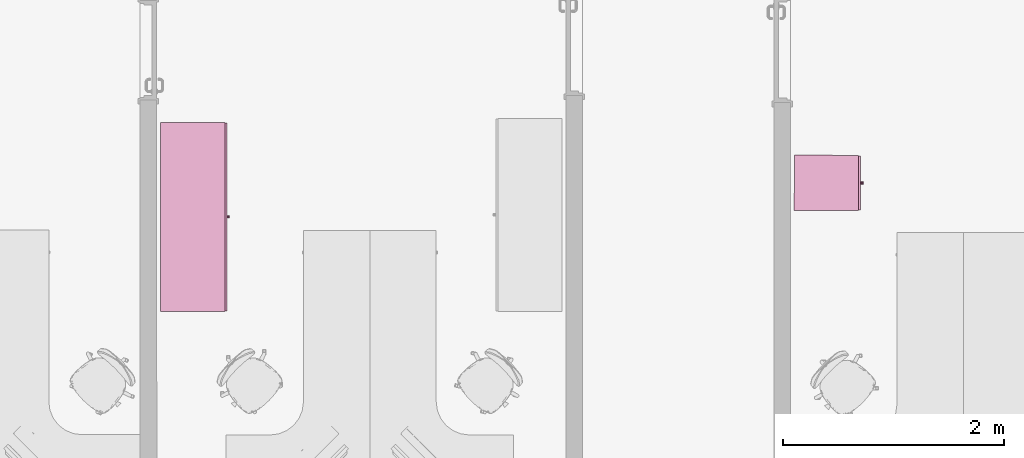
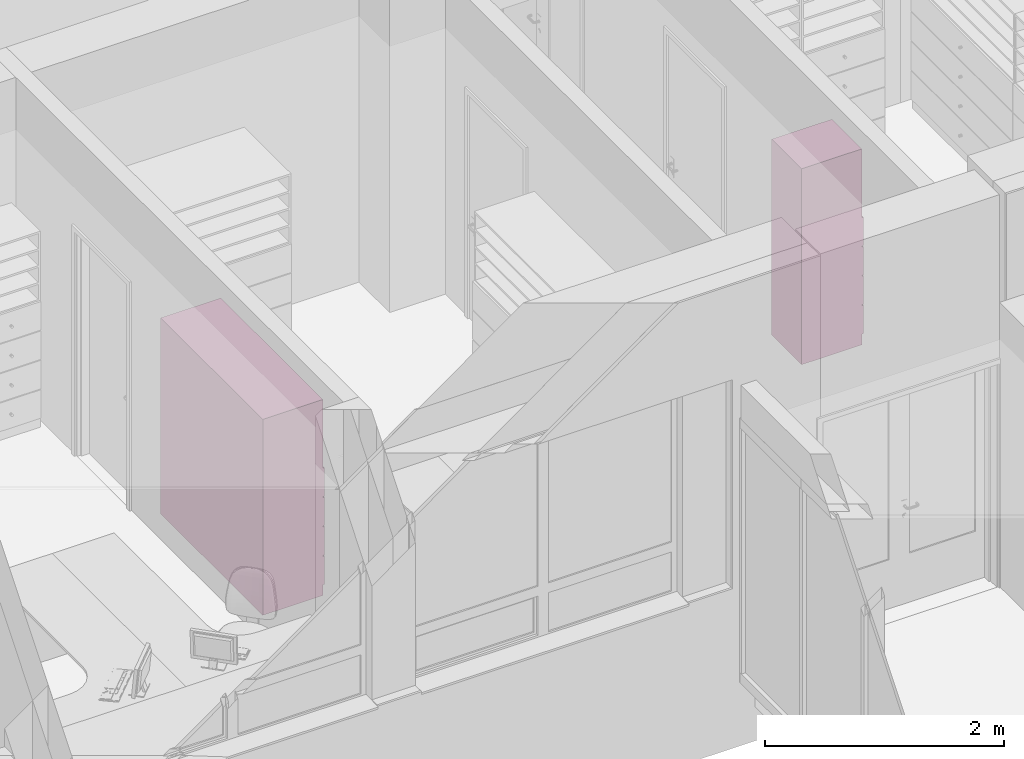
# One storey, part 135 of 194: 2 furnishings.
"""IFC2X3 building model written with IfcOpenShell, lengths in millimetres."""

import ifcopenshell
import ifcopenshell.guid

model = None  # the IFC model being written
_history = None  # IfcOwnerHistory: only IFC2X3 demands one
_inside = {}  # id of a spatial element -> (the spatial element, [elements in it])
_under = {}  # id of a project, library or spatial element -> (it, [spatial elements below it])
_declared = {}  # id of a project -> (the project, [libraries it declares])
_typed = {}  # id of a type object -> (the type object, [elements of that type])
_made_of = {}  # id of a material, layer set ... -> (it, [elements and type objects made of it])


def new_model(schema):
    """Start an empty IFC model of exactly this schema.

    Asked for "IFC4X3", IfcOpenShell would pick the latest addendum, in which some entities
    have other attributes; the version numbers below select the first issue.
    IFC2X3 requires an IfcOwnerHistory on every rooted entity: one is made here for all.
    """
    global model, _history
    if schema == "IFC4X3":
        model = ifcopenshell.file(schema_version=(4, 3, 0, 0))
    else:
        model = ifcopenshell.file(schema=schema)
    _inside.clear()
    _under.clear()
    _declared.clear()
    _typed.clear()
    _made_of.clear()
    _history = None
    if model.schema == "IFC2X3":
        org = make("IfcOrganization", Name="unknown")
        user = make(
            "IfcPersonAndOrganization",
            ThePerson=make("IfcPerson", FamilyName="unknown"),
            TheOrganization=org,
        )
        app = make(
            "IfcApplication",
            ApplicationDeveloper=org,
            Version="unknown",
            ApplicationFullName="unknown",
            ApplicationIdentifier="unknown",
        )
        _history = make(
            "IfcOwnerHistory",
            OwningUser=user,
            OwningApplication=app,
            ChangeAction="ADDED",
            CreationDate=0,
        )
    return model


def make(cls, **values):
    """One entity of the class cls with the attributes given. An attribute that is None is left unset."""
    return model.create_entity(
        cls, **{name: value for name, value in values.items() if value is not None}
    )


def entity(cls, *values):
    """Any entity or typed value of the class cls, its attributes in the order of the schema. None: left unset."""
    e = model.create_entity(cls)
    for i, value in enumerate(values):
        if value is not None:
            e[i] = value
    return e


def rooted(cls, **values):
    """An entity with a GlobalId (a new one), such as an element, a storey or a relation."""
    return make(cls, GlobalId=ifcopenshell.guid.new(), OwnerHistory=_history, **values)


def si_unit(unit_type, name, prefix=None):
    """IfcSIUnit, for example si_unit("LENGTHUNIT", "METRE", prefix="MILLI")."""
    return make("IfcSIUnit", UnitType=unit_type, Prefix=prefix, Name=name)


def converted_unit(unit_type, name, factor, base, dimensions=None, offset=None):
    """IfcConversionBasedUnit, such as the inch: factor (a typed value) times the base unit."""
    return make(
        "IfcConversionBasedUnit"
        if offset is None
        else "IfcConversionBasedUnitWithOffset",
        ConversionOffset=offset,
        Dimensions=None
        if dimensions is None
        else entity("IfcDimensionalExponents", *dimensions),
        UnitType=unit_type,
        Name=name,
        ConversionFactor=make(
            "IfcMeasureWithUnit", ValueComponent=factor, UnitComponent=base
        ),
    )


def derived_unit(unit_type, elements):
    """IfcDerivedUnit: a product of units, each with its exponent."""
    return make(
        "IfcDerivedUnit",
        Elements=[
            make("IfcDerivedUnitElement", Unit=unit, Exponent=power)
            for unit, power in elements
        ],
        UnitType=unit_type,
    )


def money_unit(currency):
    """IfcMonetaryUnit."""
    return make("IfcMonetaryUnit", Currency=currency)


def assignment(units):
    """IfcUnitAssignment: the units of a project."""
    return None if units is None else make("IfcUnitAssignment", Units=units)


def point(xyz):
    """IfcCartesianPoint."""
    return None if xyz is None else make("IfcCartesianPoint", Coordinates=xyz)


def direction(xyz):
    """IfcDirection."""
    return None if xyz is None else make("IfcDirection", DirectionRatios=xyz)


def frame(location, z_axis=None, x_axis=None):
    """IfcAxis2Placement3D, a coordinate frame: its origin and axes. An axis left out is left unset."""
    return make(
        "IfcAxis2Placement3D",
        Location=point(location),
        Axis=direction(z_axis),
        RefDirection=direction(x_axis),
    )


def origin_with_axes():
    """The frame at (0, 0, 0) with the z axis (0, 0, 1) and the x axis (1, 0, 0) written out."""
    return frame((0.0, 0.0, 0.0), z_axis=(0.0, 0.0, 1.0), x_axis=(1.0, 0.0, 0.0))


def place(relative_to, where):
    """IfcLocalPlacement: puts the frame where relative to a parent placement (None: the world)."""
    return make(
        "IfcLocalPlacement", PlacementRelTo=relative_to, RelativePlacement=where
    )


def context(
    kind, dimensions, precision=None, world=None, true_north=None, identifier=None
):
    """IfcGeometricRepresentationContext, for example the 3D "Model" context."""
    return make(
        "IfcGeometricRepresentationContext",
        ContextIdentifier=identifier,
        ContextType=kind,
        CoordinateSpaceDimension=dimensions,
        Precision=precision,
        WorldCoordinateSystem=world,
        TrueNorth=true_north,
    )


def subcontext(parent, identifier, kind, view, scale=None):
    """IfcGeometricRepresentationSubContext, for example "Body" below "Model"."""
    return make(
        "IfcGeometricRepresentationSubContext",
        ContextIdentifier=identifier,
        ContextType=kind,
        ParentContext=parent,
        TargetScale=scale,
        TargetView=view,
    )


def project(units=None, contexts=None):
    """IfcProject with its units and contexts."""
    return rooted(
        "IfcProject",
        Name="project",
        RepresentationContexts=contexts,
        UnitsInContext=assignment(units),
    )


def spatial(cls, under=None, at=None, **own):
    """A site, building, storey or space (cls), placed at a placement, below another one or the project."""
    s = rooted(cls, ObjectPlacement=at, **own)
    if under is not None:
        _under.setdefault(under.id(), (under, []))[1].append(s)
    return s


def faces_of(points, faces, orient=None, outer=None):
    """IfcFace entities. A face is a list of loops; a loop is a list of indices into points, from 0.

    orient and outer hold one flag for each loop. By default every Orientation is true, the
    first loop of a face is its IfcFaceOuterBound and the others are IfcFaceBound.
    """
    made = []
    for i, loops in enumerate(faces):
        bounds = []
        for j, loop in enumerate(loops):
            is_outer = j == 0 if outer is None else outer[i][j]
            bounds.append(
                make(
                    "IfcFaceOuterBound" if is_outer else "IfcFaceBound",
                    Bound=make("IfcPolyLoop", Polygon=[points[k] for k in loop]),
                    Orientation=True if orient is None else orient[i][j],
                )
            )
        made.append(make("IfcFace", Bounds=bounds))
    return made


def faceted_brep(points, faces, orient=None, outer=None, voids=None):
    """IfcFacetedBrep: a solid bounded by flat faces; with voids (closed shells), ...WithVoids."""
    shared = [point(p) for p in points]
    hull = make("IfcClosedShell", CfsFaces=faces_of(shared, faces, orient, outer))
    if voids is None:
        return make("IfcFacetedBrep", Outer=hull)
    return make(
        "IfcFacetedBrepWithVoids",
        Outer=hull,
        Voids=[
            make(cls, CfsFaces=faces_of(shared, fs, o, b)) for cls, fs, o, b in voids
        ],
    )


def shape(context_of_items, identifier, shape_type, items):
    """IfcShapeRepresentation: the items that make up one representation, for example the "Body"."""
    return make(
        "IfcShapeRepresentation",
        ContextOfItems=context_of_items,
        RepresentationIdentifier=identifier,
        RepresentationType=shape_type,
        Items=items,
    )


def source(mapping_origin, context_of_items, identifier, shape_type, items):
    """IfcRepresentationMap: a shape defined once, which mapped items show again and again."""
    return make(
        "IfcRepresentationMap",
        MappingOrigin=mapping_origin,
        MappedRepresentation=shape(context_of_items, identifier, shape_type, items),
    )


def transform(
    local_origin,
    x_axis=None,
    y_axis=None,
    z_axis=None,
    scale=None,
    scale2=None,
    scale3=None,
    uniform=True,
):
    """IfcCartesianTransformationOperator3D, or its non-uniform kind. x_axis, y_axis, z_axis: its Axis1, 2, 3."""
    if uniform:
        return make(
            "IfcCartesianTransformationOperator3D",
            Axis1=direction(x_axis),
            Axis2=direction(y_axis),
            LocalOrigin=point(local_origin),
            Scale=scale,
            Axis3=direction(z_axis),
        )
    return make(
        "IfcCartesianTransformationOperator3DnonUniform",
        Axis1=direction(x_axis),
        Axis2=direction(y_axis),
        LocalOrigin=point(local_origin),
        Scale=scale,
        Axis3=direction(z_axis),
        Scale2=scale2,
        Scale3=scale3,
    )


def mapped(mapping_source, mapping_target):
    """IfcMappedItem: shows the shape of a source again, moved by a transform."""
    return make(
        "IfcMappedItem", MappingSource=mapping_source, MappingTarget=mapping_target
    )


def made_of(thing, what):
    """Note that an element or type object is made of a material, layer set ...; save() writes the relation."""
    if what is not None:
        _made_of.setdefault(what.id(), (what, []))[1].append(thing)
    return thing


def type_object(cls, material=None, **own):
    """A type object (cls), such as IfcWallType, which elements share."""
    return made_of(rooted(cls, **own), material)


def element(
    cls,
    number,
    at=None,
    inside=None,
    cuts=None,
    type_object=None,
    material=None,
    context=None,
    identifier="Body",
    shape_type=None,
    held_by="IfcProductDefinitionShape",
    body=None,
    shapes=None,
    **own,
):
    """One element of the class cls, such as IfcWall. Its Tag is "e" and its number.

    at: its placement. inside: the storey or other place that contains it. cuts: it is an
    opening in that element (IfcRelVoidsElement). A single representation is given by context,
    identifier, shape_type and body (its items); several are given by shapes. held_by: the class
    of the entity that holds the representations. save() writes the other relations.
    """
    e = rooted(cls, Tag="e%d" % number, ObjectPlacement=at, **own)
    if body is not None:
        shapes = [shape(context, identifier, shape_type, body)]
    if shapes is not None:
        e.Representation = make(held_by, Representations=shapes)
    if inside is not None:
        _inside.setdefault(inside.id(), (inside, []))[1].append(e)
    if cuts is not None:
        rooted(
            "IfcRelVoidsElement", RelatingBuildingElement=cuts, RelatedOpeningElement=e
        )
    if type_object is not None:
        _typed.setdefault(type_object.id(), (type_object, []))[1].append(e)
    return made_of(e, material)


def aggregate(whole, parts):
    """IfcRelAggregates: a whole, such as a stair, and the parts it consists of."""
    return rooted("IfcRelAggregates", RelatingObject=whole, RelatedObjects=parts)


def save(model, path):
    """Write the relations noted so far, then the file.

    IfcRelAggregates (storeys below a building ...), IfcRelContainedInSpatialStructure (elements
    in a storey), IfcRelDefinesByType, IfcRelAssociatesMaterial and IfcRelDeclares: one each for
    every whole, place, type object, material and project.
    """
    for whole, parts in _under.values():
        aggregate(whole, parts)
    for where, things in _inside.values():
        rooted(
            "IfcRelContainedInSpatialStructure",
            RelatedElements=things,
            RelatingStructure=where,
        )
    for kind, things in _typed.values():
        rooted("IfcRelDefinesByType", RelatedObjects=things, RelatingType=kind)
    for what, things in _made_of.values():
        rooted("IfcRelAssociatesMaterial", RelatedObjects=things, RelatingMaterial=what)
    for by, libraries in _declared.values():
        rooted("IfcRelDeclares", RelatingContext=by, RelatedDefinitions=libraries)
    model.write(path)


model = new_model("IFC2X3")

# Units and contexts
model_context = context("Model", 3, precision=1e-05, world=origin_with_axes(), true_north=direction((0.0, 1.0)))
body_context = subcontext(model_context, "Body", "Model", "MODEL_VIEW")
ifc_project = project(units=[si_unit("LENGTHUNIT", "METRE", prefix="MILLI"), si_unit("AREAUNIT", "SQUARE_METRE"), si_unit("VOLUMEUNIT", "CUBIC_METRE"), converted_unit("PLANEANGLEUNIT", "DEGREE", entity("IfcPlaneAngleMeasure", 0.0174532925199), si_unit("PLANEANGLEUNIT", "RADIAN"), dimensions=[0, 0, 0, 0, 0, 0, 0]), si_unit("SOLIDANGLEUNIT", "STERADIAN"), money_unit("EUR"), converted_unit("TIMEUNIT", "Year", entity("IfcTimeMeasure", 31556926.0), si_unit("TIMEUNIT", "SECOND"), dimensions=[0, 0, 1, 0, 0, 0, 0]), si_unit("MASSUNIT", "GRAM", prefix="KILO"), si_unit("THERMODYNAMICTEMPERATUREUNIT", "DEGREE_CELSIUS"), si_unit("LUMINOUSINTENSITYUNIT", "LUMEN"), si_unit("ENERGYUNIT", "JOULE", prefix="MEGA"), derived_unit("THERMALCONDUCTANCEUNIT", [(si_unit("POWERUNIT", "WATT"), 1), (si_unit("LENGTHUNIT", "METRE"), -1), (si_unit("THERMODYNAMICTEMPERATUREUNIT", "KELVIN"), -1)]), derived_unit("SPECIFICHEATCAPACITYUNIT", [(si_unit("ENERGYUNIT", "JOULE"), 1), (si_unit("MASSUNIT", "GRAM", prefix="KILO"), -1), (si_unit("THERMODYNAMICTEMPERATUREUNIT", "KELVIN"), -1)]), derived_unit("MASSDENSITYUNIT", [(si_unit("MASSUNIT", "GRAM", prefix="KILO"), 1), (si_unit("VOLUMEUNIT", "CUBIC_METRE"), -1)])], contexts=[model_context])

# Site, building, storey
site_placement = place(None, origin_with_axes())
site = spatial("IfcSite", under=ifc_project, at=site_placement, Name="Site", CompositionType="ELEMENT")
building_placement = place(site_placement, origin_with_axes())
building = spatial("IfcBuilding", under=site, at=building_placement, Name="Building", CompositionType="ELEMENT")
storey_placement = place(building_placement, frame((0.0, 0.0, 3000.0), z_axis=(0.0, 0.0, 1.0), x_axis=(1.0, 0.0, 0.0)))
storey = spatial("IfcBuildingStorey", under=building, at=storey_placement, Name="2 KORRUS", CompositionType="ELEMENT", Elevation=3000.0)

# Furnishings
furnishing_element_type_1 = type_object("IfcFurnishingElementType", Name="Model Element 105")
shared_shape_1 = source(origin_with_axes(), body_context, "Body", "Brep", [
    faceted_brep([(-1709.22062814, 19.0, 0.0), (-1709.22062814, 600.0, 0.0), (0.0, 600.0, 0.0), (0.0, 19.0, 0.0), (-1709.22062814, 19.0, 100.0), (-1709.22062814, 600.0, 100.0), (0.0, 600.0, 100.0), (0.0, 19.0, 100.0)], [[[0, 1, 2, 3]], [[0, 4, 5, 1]], [[1, 5, 6, 2]], [[2, 6, 7, 3]], [[3, 7, 4, 0]], [[7, 6, 5, 4]]]),
    faceted_brep([(-19.0, 600.0, 119.0), (-19.0, 600.0, 1981.0), (-19.0, 581.0, 1981.0), (-19.0, 581.0, 119.0), (-1690.22062814, 600.0, 119.0), (-1690.22062814, 600.0, 1981.0), (-1690.22062814, 581.0, 1981.0), (-1690.22062814, 581.0, 119.0)], [[[0, 1, 2, 3]], [[4, 5, 1, 0]], [[1, 5, 6, 2]], [[3, 2, 6, 7]], [[0, 3, 7, 4]], [[7, 6, 5, 4]]]),
    faceted_brep([(-1709.22062814, 19.0, 100.0), (-1709.22062814, 600.0, 100.0), (-1690.22062814, 600.0, 100.0), (-1690.22062814, 19.0, 100.0), (-1709.22062814, 19.0, 2000.0), (-1709.22062814, 600.0, 2000.0), (-1690.22062814, 600.0, 2000.0), (-1690.22062814, 19.0, 2000.0)], [[[0, 1, 2, 3]], [[0, 4, 5, 1]], [[1, 5, 6, 2]], [[2, 6, 7, 3]], [[3, 7, 4, 0]], [[7, 6, 5, 4]]]),
    faceted_brep([(-19.0, 19.0, 100.0), (-19.0, 600.0, 100.0), (0.0, 600.0, 100.0), (0.0, 19.0, 100.0), (-19.0, 19.0, 2000.0), (-19.0, 600.0, 2000.0), (0.0, 600.0, 2000.0), (0.0, 19.0, 2000.0)], [[[0, 1, 2, 3]], [[0, 4, 5, 1]], [[1, 5, 6, 2]], [[2, 6, 7, 3]], [[3, 7, 4, 0]], [[7, 6, 5, 4]]]),
    faceted_brep([(-1690.22062814, 19.0, 100.0), (-1690.22062814, 600.0, 100.0), (-19.0, 600.0, 100.0), (-19.0, 19.0, 100.0), (-1690.22062814, 19.0, 119.0), (-1690.22062814, 600.0, 119.0), (-19.0, 600.0, 119.0), (-19.0, 19.0, 119.0)], [[[0, 1, 2, 3]], [[0, 4, 5, 1]], [[1, 5, 6, 2]], [[2, 6, 7, 3]], [[3, 7, 4, 0]], [[7, 6, 5, 4]]]),
    faceted_brep([(-1690.22062814, 19.0, 1981.0), (-1690.22062814, 600.0, 1981.0), (-19.0, 600.0, 1981.0), (-19.0, 19.0, 1981.0), (-1690.22062814, 19.0, 2000.0), (-1690.22062814, 600.0, 2000.0), (-19.0, 600.0, 2000.0), (-19.0, 19.0, 2000.0)], [[[0, 1, 2, 3]], [[0, 4, 5, 1]], [[1, 5, 6, 2]], [[2, 6, 7, 3]], [[3, 7, 4, 0]], [[7, 6, 5, 4]]]),
    faceted_brep([(-5.0, 19.0, 105.0), (-5.0, 0.0, 105.0), (-1704.22062814, 0.0, 105.0), (-1704.22062814, 19.0, 105.0), (-5.0, 19.0, 395.0), (-5.0, 0.0, 395.0), (-1704.22062814, 0.0, 395.0), (-1704.22062814, 19.0, 395.0)], [[[0, 1, 2, 3]], [[4, 5, 1, 0]], [[1, 5, 6, 2]], [[3, 2, 6, 7]], [[0, 3, 7, 4]], [[7, 6, 5, 4]]]),
    faceted_brep([(-865.002618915, 0.0, 244.0), (-866.610314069, 0.0, 250.0), (-865.002618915, 0.0, 256.0), (-860.610314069, 0.0, 260.392304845), (-854.610314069, 0.0, 262.0), (-848.610314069, 0.0, 260.392304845), (-844.218009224, 0.0, 256.0), (-842.610314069, 0.0, 250.0), (-844.218009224, 0.0, 244.0), (-848.610314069, 0.0, 239.607695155), (-854.610314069, 0.0, 238.0), (-860.610314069, 0.0, 239.607695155), (-865.002618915, -25.0, 244.0), (-866.610314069, -25.0, 250.0), (-865.002618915, -25.0, 256.0), (-860.610314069, -25.0, 260.392304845), (-854.610314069, -25.0, 262.0), (-848.610314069, -25.0, 260.392304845), (-844.218009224, -25.0, 256.0), (-842.610314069, -25.0, 250.0), (-844.218009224, -25.0, 244.0), (-848.610314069, -25.0, 239.607695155), (-854.610314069, -25.0, 238.0), (-860.610314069, -25.0, 239.607695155)], [[[0, 1, 2, 3, 4, 5, 6, 7, 8, 9, 10, 11]], [[0, 12, 13, 1]], [[1, 13, 14, 2]], [[2, 14, 15, 3]], [[3, 15, 16, 4]], [[4, 16, 17, 5]], [[5, 17, 18, 6]], [[6, 18, 19, 7]], [[7, 19, 20, 8]], [[8, 20, 21, 9]], [[9, 21, 22, 10]], [[10, 22, 23, 11]], [[11, 23, 12, 0]], [[12, 23, 22, 21, 20, 19, 18, 17, 16, 15, 14, 13]]]),
    faceted_brep([(-5.0, 19.0, 405.0), (-5.0, 0.0, 405.0), (-1704.22062814, 0.0, 405.0), (-1704.22062814, 19.0, 405.0), (-5.0, 19.0, 695.0), (-5.0, 0.0, 695.0), (-1704.22062814, 0.0, 695.0), (-1704.22062814, 19.0, 695.0)], [[[0, 1, 2, 3]], [[4, 5, 1, 0]], [[1, 5, 6, 2]], [[3, 2, 6, 7]], [[0, 3, 7, 4]], [[7, 6, 5, 4]]]),
    faceted_brep([(-865.002618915, 0.0, 544.0), (-866.610314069, 0.0, 550.0), (-865.002618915, 0.0, 556.0), (-860.610314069, 0.0, 560.392304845), (-854.610314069, 0.0, 562.0), (-848.610314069, 0.0, 560.392304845), (-844.218009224, 0.0, 556.0), (-842.610314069, 0.0, 550.0), (-844.218009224, 0.0, 544.0), (-848.610314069, 0.0, 539.607695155), (-854.610314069, 0.0, 538.0), (-860.610314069, 0.0, 539.607695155), (-865.002618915, -25.0, 544.0), (-866.610314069, -25.0, 550.0), (-865.002618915, -25.0, 556.0), (-860.610314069, -25.0, 560.392304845), (-854.610314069, -25.0, 562.0), (-848.610314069, -25.0, 560.392304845), (-844.218009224, -25.0, 556.0), (-842.610314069, -25.0, 550.0), (-844.218009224, -25.0, 544.0), (-848.610314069, -25.0, 539.607695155), (-854.610314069, -25.0, 538.0), (-860.610314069, -25.0, 539.607695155)], [[[0, 1, 2, 3, 4, 5, 6, 7, 8, 9, 10, 11]], [[0, 12, 13, 1]], [[1, 13, 14, 2]], [[2, 14, 15, 3]], [[3, 15, 16, 4]], [[4, 16, 17, 5]], [[5, 17, 18, 6]], [[6, 18, 19, 7]], [[7, 19, 20, 8]], [[8, 20, 21, 9]], [[9, 21, 22, 10]], [[10, 22, 23, 11]], [[11, 23, 12, 0]], [[12, 23, 22, 21, 20, 19, 18, 17, 16, 15, 14, 13]]]),
    faceted_brep([(-5.0, 19.0, 705.0), (-5.0, 0.0, 705.0), (-1704.22062814, 0.0, 705.0), (-1704.22062814, 19.0, 705.0), (-5.0, 19.0, 995.0), (-5.0, 0.0, 995.0), (-1704.22062814, 0.0, 995.0), (-1704.22062814, 19.0, 995.0)], [[[0, 1, 2, 3]], [[4, 5, 1, 0]], [[1, 5, 6, 2]], [[3, 2, 6, 7]], [[0, 3, 7, 4]], [[7, 6, 5, 4]]]),
    faceted_brep([(-865.002618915, 0.0, 844.0), (-866.610314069, 0.0, 850.0), (-865.002618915, 0.0, 856.0), (-860.610314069, 0.0, 860.392304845), (-854.610314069, 0.0, 862.0), (-848.610314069, 0.0, 860.392304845), (-844.218009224, 0.0, 856.0), (-842.610314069, 0.0, 850.0), (-844.218009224, 0.0, 844.0), (-848.610314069, 0.0, 839.607695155), (-854.610314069, 0.0, 838.0), (-860.610314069, 0.0, 839.607695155), (-865.002618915, -25.0, 844.0), (-866.610314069, -25.0, 850.0), (-865.002618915, -25.0, 856.0), (-860.610314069, -25.0, 860.392304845), (-854.610314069, -25.0, 862.0), (-848.610314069, -25.0, 860.392304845), (-844.218009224, -25.0, 856.0), (-842.610314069, -25.0, 850.0), (-844.218009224, -25.0, 844.0), (-848.610314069, -25.0, 839.607695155), (-854.610314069, -25.0, 838.0), (-860.610314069, -25.0, 839.607695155)], [[[0, 1, 2, 3, 4, 5, 6, 7, 8, 9, 10, 11]], [[0, 12, 13, 1]], [[1, 13, 14, 2]], [[2, 14, 15, 3]], [[3, 15, 16, 4]], [[4, 16, 17, 5]], [[5, 17, 18, 6]], [[6, 18, 19, 7]], [[7, 19, 20, 8]], [[8, 20, 21, 9]], [[9, 21, 22, 10]], [[10, 22, 23, 11]], [[11, 23, 12, 0]], [[12, 23, 22, 21, 20, 19, 18, 17, 16, 15, 14, 13]]]),
    faceted_brep([(-5.0, 19.0, 1005.0), (-5.0, 0.0, 1005.0), (-1704.22062814, 0.0, 1005.0), (-1704.22062814, 19.0, 1005.0), (-5.0, 19.0, 1295.0), (-5.0, 0.0, 1295.0), (-1704.22062814, 0.0, 1295.0), (-1704.22062814, 19.0, 1295.0)], [[[0, 1, 2, 3]], [[4, 5, 1, 0]], [[1, 5, 6, 2]], [[3, 2, 6, 7]], [[0, 3, 7, 4]], [[7, 6, 5, 4]]]),
    faceted_brep([(-865.002618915, 0.0, 1144.0), (-866.610314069, 0.0, 1150.0), (-865.002618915, 0.0, 1156.0), (-860.610314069, 0.0, 1160.39230485), (-854.610314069, 0.0, 1162.0), (-848.610314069, 0.0, 1160.39230485), (-844.218009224, 0.0, 1156.0), (-842.610314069, 0.0, 1150.0), (-844.218009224, 0.0, 1144.0), (-848.610314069, 0.0, 1139.60769515), (-854.610314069, 0.0, 1138.0), (-860.610314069, 0.0, 1139.60769515), (-865.002618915, -25.0, 1144.0), (-866.610314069, -25.0, 1150.0), (-865.002618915, -25.0, 1156.0), (-860.610314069, -25.0, 1160.39230485), (-854.610314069, -25.0, 1162.0), (-848.610314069, -25.0, 1160.39230485), (-844.218009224, -25.0, 1156.0), (-842.610314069, -25.0, 1150.0), (-844.218009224, -25.0, 1144.0), (-848.610314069, -25.0, 1139.60769515), (-854.610314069, -25.0, 1138.0), (-860.610314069, -25.0, 1139.60769515)], [[[0, 1, 2, 3, 4, 5, 6, 7, 8, 9, 10, 11]], [[0, 12, 13, 1]], [[1, 13, 14, 2]], [[2, 14, 15, 3]], [[3, 15, 16, 4]], [[4, 16, 17, 5]], [[5, 17, 18, 6]], [[6, 18, 19, 7]], [[7, 19, 20, 8]], [[8, 20, 21, 9]], [[9, 21, 22, 10]], [[10, 22, 23, 11]], [[11, 23, 12, 0]], [[12, 23, 22, 21, 20, 19, 18, 17, 16, 15, 14, 13]]]),
    faceted_brep([(-19.0, 19.0, 390.5), (-19.0, 19.0, 409.5), (-1690.22062814, 19.0, 409.5), (-1690.22062814, 19.0, 390.5), (-19.0, 581.0, 390.5), (-19.0, 581.0, 409.5), (-1690.22062814, 581.0, 409.5), (-1690.22062814, 581.0, 390.5)], [[[0, 1, 2, 3]], [[4, 5, 1, 0]], [[1, 5, 6, 2]], [[3, 2, 6, 7]], [[0, 3, 7, 4]], [[7, 6, 5, 4]]]),
    faceted_brep([(-19.0, 19.0, 690.5), (-19.0, 19.0, 709.5), (-1690.22062814, 19.0, 709.5), (-1690.22062814, 19.0, 690.5), (-19.0, 581.0, 690.5), (-19.0, 581.0, 709.5), (-1690.22062814, 581.0, 709.5), (-1690.22062814, 581.0, 690.5)], [[[0, 1, 2, 3]], [[4, 5, 1, 0]], [[1, 5, 6, 2]], [[3, 2, 6, 7]], [[0, 3, 7, 4]], [[7, 6, 5, 4]]]),
    faceted_brep([(-19.0, 19.0, 990.5), (-19.0, 19.0, 1009.5), (-1690.22062814, 19.0, 1009.5), (-1690.22062814, 19.0, 990.5), (-19.0, 581.0, 990.5), (-19.0, 581.0, 1009.5), (-1690.22062814, 581.0, 1009.5), (-1690.22062814, 581.0, 990.5)], [[[0, 1, 2, 3]], [[4, 5, 1, 0]], [[1, 5, 6, 2]], [[3, 2, 6, 7]], [[0, 3, 7, 4]], [[7, 6, 5, 4]]]),
    faceted_brep([(-19.0, 19.0, 1290.5), (-19.0, 19.0, 1309.5), (-1690.22062814, 19.0, 1309.5), (-1690.22062814, 19.0, 1290.5), (-19.0, 581.0, 1290.5), (-19.0, 581.0, 1309.5), (-1690.22062814, 581.0, 1309.5), (-1690.22062814, 581.0, 1290.5)], [[[0, 1, 2, 3]], [[4, 5, 1, 0]], [[1, 5, 6, 2]], [[3, 2, 6, 7]], [[0, 3, 7, 4]], [[7, 6, 5, 4]]]),
    faceted_brep([(-1690.22062814, 19.0, 1463.125), (-1690.22062814, 581.0, 1463.125), (-19.0, 581.0, 1463.125), (-19.0, 19.0, 1463.125), (-1690.22062814, 19.0, 1482.125), (-1690.22062814, 581.0, 1482.125), (-19.0, 581.0, 1482.125), (-19.0, 19.0, 1482.125)], [[[0, 1, 2, 3]], [[0, 4, 5, 1]], [[1, 5, 6, 2]], [[2, 6, 7, 3]], [[3, 7, 4, 0]], [[7, 6, 5, 4]]]),
    faceted_brep([(-1690.22062814, 19.0, 1635.75), (-1690.22062814, 581.0, 1635.75), (-19.0, 581.0, 1635.75), (-19.0, 19.0, 1635.75), (-1690.22062814, 19.0, 1654.75), (-1690.22062814, 581.0, 1654.75), (-19.0, 581.0, 1654.75), (-19.0, 19.0, 1654.75)], [[[0, 1, 2, 3]], [[0, 4, 5, 1]], [[1, 5, 6, 2]], [[2, 6, 7, 3]], [[3, 7, 4, 0]], [[7, 6, 5, 4]]]),
    faceted_brep([(-1690.22062814, 19.0, 1808.375), (-1690.22062814, 581.0, 1808.375), (-19.0, 581.0, 1808.375), (-19.0, 19.0, 1808.375), (-1690.22062814, 19.0, 1827.375), (-1690.22062814, 581.0, 1827.375), (-19.0, 581.0, 1827.375), (-19.0, 19.0, 1827.375)], [[[0, 1, 2, 3]], [[0, 4, 5, 1]], [[1, 5, 6, 2]], [[2, 6, 7, 3]], [[3, 7, 4, 0]], [[7, 6, 5, 4]]]),
])
furnishing_1_placement = place(storey_placement, frame((34788.2233537, 63113.3162607, 0.0), z_axis=(0.0, 0.0, 1.0), x_axis=(0.0, 1.0, 0.0)))
element("IfcFurnishingElement", 1, at=furnishing_1_placement, inside=storey, type_object=furnishing_element_type_1, Name="FU - 001", context=body_context, shape_type="MappedRepresentation", body=[
    mapped(shared_shape_1, transform((0.0, 0.0, 0.0))),
])
furnishing_element_type_2 = type_object("IfcFurnishingElementType", Name="Model Element 34")
shared_shape_2 = source(origin_with_axes(), body_context, "Body", "Brep", [
    faceted_brep([(500.0, 19.0, 0.0), (0.0, 19.0, 0.0), (0.0, 600.234166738, 0.0), (500.0, 600.234166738, 0.0), (500.0, 19.0, 100.0), (0.0, 19.0, 100.0), (0.0, 600.234166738, 100.0), (500.0, 600.234166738, 100.0)], [[[0, 1, 2, 3]], [[1, 0, 4, 5]], [[2, 1, 5, 6]], [[3, 2, 6, 7]], [[0, 3, 7, 4]], [[5, 4, 7, 6]]]),
    faceted_brep([(19.0, 600.234166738, 119.0), (19.0, 581.234166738, 119.0), (19.0, 581.234166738, 1981.0), (19.0, 600.234166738, 1981.0), (481.0, 600.234166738, 119.0), (481.0, 581.234166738, 119.0), (481.0, 581.234166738, 1981.0), (481.0, 600.234166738, 1981.0)], [[[0, 1, 2, 3]], [[0, 4, 5, 1]], [[1, 5, 6, 2]], [[3, 2, 6, 7]], [[4, 0, 3, 7]], [[5, 4, 7, 6]]]),
    faceted_brep([(500.0, 19.0, 100.0), (481.0, 19.0, 100.0), (481.0, 600.234166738, 100.0), (500.0, 600.234166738, 100.0), (500.0, 19.0, 2000.0), (481.0, 19.0, 2000.0), (481.0, 600.234166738, 2000.0), (500.0, 600.234166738, 2000.0)], [[[0, 1, 2, 3]], [[1, 0, 4, 5]], [[2, 1, 5, 6]], [[3, 2, 6, 7]], [[0, 3, 7, 4]], [[5, 4, 7, 6]]]),
    faceted_brep([(19.0, 19.0, 100.0), (0.0, 19.0, 100.0), (0.0, 600.234166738, 100.0), (19.0, 600.234166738, 100.0), (19.0, 19.0, 2000.0), (0.0, 19.0, 2000.0), (0.0, 600.234166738, 2000.0), (19.0, 600.234166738, 2000.0)], [[[0, 1, 2, 3]], [[1, 0, 4, 5]], [[2, 1, 5, 6]], [[3, 2, 6, 7]], [[0, 3, 7, 4]], [[5, 4, 7, 6]]]),
    faceted_brep([(481.0, 19.0, 100.0), (19.0, 19.0, 100.0), (19.0, 600.234166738, 100.0), (481.0, 600.234166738, 100.0), (481.0, 19.0, 119.0), (19.0, 19.0, 119.0), (19.0, 600.234166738, 119.0), (481.0, 600.234166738, 119.0)], [[[0, 1, 2, 3]], [[1, 0, 4, 5]], [[2, 1, 5, 6]], [[3, 2, 6, 7]], [[0, 3, 7, 4]], [[5, 4, 7, 6]]]),
    faceted_brep([(481.0, 19.0, 1981.0), (19.0, 19.0, 1981.0), (19.0, 600.234166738, 1981.0), (481.0, 600.234166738, 1981.0), (481.0, 19.0, 2000.0), (19.0, 19.0, 2000.0), (19.0, 600.234166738, 2000.0), (481.0, 600.234166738, 2000.0)], [[[0, 1, 2, 3]], [[1, 0, 4, 5]], [[2, 1, 5, 6]], [[3, 2, 6, 7]], [[0, 3, 7, 4]], [[5, 4, 7, 6]]]),
    faceted_brep([(5.0, 19.0, 105.0), (495.0, 19.0, 105.0), (495.0, 0.0, 105.0), (5.0, 0.0, 105.0), (5.0, 19.0, 395.0), (495.0, 19.0, 395.0), (495.0, 0.0, 395.0), (5.0, 0.0, 395.0)], [[[0, 1, 2, 3]], [[0, 4, 5, 1]], [[1, 5, 6, 2]], [[3, 2, 6, 7]], [[4, 0, 3, 7]], [[5, 4, 7, 6]]]),
    faceted_brep([(260.392304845, 0.0, 244.0), (256.0, 0.0, 239.607695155), (250.0, 0.0, 238.0), (244.0, 0.0, 239.607695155), (239.607695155, 0.0, 244.0), (238.0, 0.0, 250.0), (239.607695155, 0.0, 256.0), (244.0, 0.0, 260.392304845), (250.0, 0.0, 262.0), (256.0, 0.0, 260.392304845), (260.392304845, 0.0, 256.0), (262.0, 0.0, 250.0), (260.392304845, -25.0, 244.0), (256.0, -25.0, 239.607695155), (250.0, -25.0, 238.0), (244.0, -25.0, 239.607695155), (239.607695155, -25.0, 244.0), (238.0, -25.0, 250.0), (239.607695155, -25.0, 256.0), (244.0, -25.0, 260.392304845), (250.0, -25.0, 262.0), (256.0, -25.0, 260.392304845), (260.392304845, -25.0, 256.0), (262.0, -25.0, 250.0)], [[[0, 1, 2, 3, 4, 5, 6, 7, 8, 9, 10, 11]], [[1, 0, 12, 13]], [[2, 1, 13, 14]], [[3, 2, 14, 15]], [[4, 3, 15, 16]], [[5, 4, 16, 17]], [[6, 5, 17, 18]], [[7, 6, 18, 19]], [[8, 7, 19, 20]], [[9, 8, 20, 21]], [[10, 9, 21, 22]], [[11, 10, 22, 23]], [[0, 11, 23, 12]], [[12, 23, 22, 21, 20, 19, 18, 17, 16, 15, 14, 13]]]),
    faceted_brep([(5.0, 19.0, 405.0), (495.0, 19.0, 405.0), (495.0, 0.0, 405.0), (5.0, 0.0, 405.0), (5.0, 19.0, 695.0), (495.0, 19.0, 695.0), (495.0, 0.0, 695.0), (5.0, 0.0, 695.0)], [[[0, 1, 2, 3]], [[0, 4, 5, 1]], [[1, 5, 6, 2]], [[3, 2, 6, 7]], [[4, 0, 3, 7]], [[5, 4, 7, 6]]]),
    faceted_brep([(260.392304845, 0.0, 544.0), (256.0, 0.0, 539.607695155), (250.0, 0.0, 538.0), (244.0, 0.0, 539.607695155), (239.607695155, 0.0, 544.0), (238.0, 0.0, 550.0), (239.607695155, 0.0, 556.0), (244.0, 0.0, 560.392304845), (250.0, 0.0, 562.0), (256.0, 0.0, 560.392304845), (260.392304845, 0.0, 556.0), (262.0, 0.0, 550.0), (260.392304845, -25.0, 544.0), (256.0, -25.0, 539.607695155), (250.0, -25.0, 538.0), (244.0, -25.0, 539.607695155), (239.607695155, -25.0, 544.0), (238.0, -25.0, 550.0), (239.607695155, -25.0, 556.0), (244.0, -25.0, 560.392304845), (250.0, -25.0, 562.0), (256.0, -25.0, 560.392304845), (260.392304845, -25.0, 556.0), (262.0, -25.0, 550.0)], [[[0, 1, 2, 3, 4, 5, 6, 7, 8, 9, 10, 11]], [[1, 0, 12, 13]], [[2, 1, 13, 14]], [[3, 2, 14, 15]], [[4, 3, 15, 16]], [[5, 4, 16, 17]], [[6, 5, 17, 18]], [[7, 6, 18, 19]], [[8, 7, 19, 20]], [[9, 8, 20, 21]], [[10, 9, 21, 22]], [[11, 10, 22, 23]], [[0, 11, 23, 12]], [[12, 23, 22, 21, 20, 19, 18, 17, 16, 15, 14, 13]]]),
    faceted_brep([(5.0, 19.0, 705.0), (495.0, 19.0, 705.0), (495.0, 0.0, 705.0), (5.0, 0.0, 705.0), (5.0, 19.0, 995.0), (495.0, 19.0, 995.0), (495.0, 0.0, 995.0), (5.0, 0.0, 995.0)], [[[0, 1, 2, 3]], [[0, 4, 5, 1]], [[1, 5, 6, 2]], [[3, 2, 6, 7]], [[4, 0, 3, 7]], [[5, 4, 7, 6]]]),
    faceted_brep([(260.392304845, 0.0, 844.0), (256.0, 0.0, 839.607695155), (250.0, 0.0, 838.0), (244.0, 0.0, 839.607695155), (239.607695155, 0.0, 844.0), (238.0, 0.0, 850.0), (239.607695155, 0.0, 856.0), (244.0, 0.0, 860.392304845), (250.0, 0.0, 862.0), (256.0, 0.0, 860.392304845), (260.392304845, 0.0, 856.0), (262.0, 0.0, 850.0), (260.392304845, -25.0, 844.0), (256.0, -25.0, 839.607695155), (250.0, -25.0, 838.0), (244.0, -25.0, 839.607695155), (239.607695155, -25.0, 844.0), (238.0, -25.0, 850.0), (239.607695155, -25.0, 856.0), (244.0, -25.0, 860.392304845), (250.0, -25.0, 862.0), (256.0, -25.0, 860.392304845), (260.392304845, -25.0, 856.0), (262.0, -25.0, 850.0)], [[[0, 1, 2, 3, 4, 5, 6, 7, 8, 9, 10, 11]], [[1, 0, 12, 13]], [[2, 1, 13, 14]], [[3, 2, 14, 15]], [[4, 3, 15, 16]], [[5, 4, 16, 17]], [[6, 5, 17, 18]], [[7, 6, 18, 19]], [[8, 7, 19, 20]], [[9, 8, 20, 21]], [[10, 9, 21, 22]], [[11, 10, 22, 23]], [[0, 11, 23, 12]], [[12, 23, 22, 21, 20, 19, 18, 17, 16, 15, 14, 13]]]),
    faceted_brep([(5.0, 19.0, 1005.0), (495.0, 19.0, 1005.0), (495.0, 0.0, 1005.0), (5.0, 0.0, 1005.0), (5.0, 19.0, 1295.0), (495.0, 19.0, 1295.0), (495.0, 0.0, 1295.0), (5.0, 0.0, 1295.0)], [[[0, 1, 2, 3]], [[0, 4, 5, 1]], [[1, 5, 6, 2]], [[3, 2, 6, 7]], [[4, 0, 3, 7]], [[5, 4, 7, 6]]]),
    faceted_brep([(260.392304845, 0.0, 1144.0), (256.0, 0.0, 1139.60769515), (250.0, 0.0, 1138.0), (244.0, 0.0, 1139.60769515), (239.607695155, 0.0, 1144.0), (238.0, 0.0, 1150.0), (239.607695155, 0.0, 1156.0), (244.0, 0.0, 1160.39230485), (250.0, 0.0, 1162.0), (256.0, 0.0, 1160.39230485), (260.392304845, 0.0, 1156.0), (262.0, 0.0, 1150.0), (260.392304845, -25.0, 1144.0), (256.0, -25.0, 1139.60769515), (250.0, -25.0, 1138.0), (244.0, -25.0, 1139.60769515), (239.607695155, -25.0, 1144.0), (238.0, -25.0, 1150.0), (239.607695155, -25.0, 1156.0), (244.0, -25.0, 1160.39230485), (250.0, -25.0, 1162.0), (256.0, -25.0, 1160.39230485), (260.392304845, -25.0, 1156.0), (262.0, -25.0, 1150.0)], [[[0, 1, 2, 3, 4, 5, 6, 7, 8, 9, 10, 11]], [[1, 0, 12, 13]], [[2, 1, 13, 14]], [[3, 2, 14, 15]], [[4, 3, 15, 16]], [[5, 4, 16, 17]], [[6, 5, 17, 18]], [[7, 6, 18, 19]], [[8, 7, 19, 20]], [[9, 8, 20, 21]], [[10, 9, 21, 22]], [[11, 10, 22, 23]], [[0, 11, 23, 12]], [[12, 23, 22, 21, 20, 19, 18, 17, 16, 15, 14, 13]]]),
    faceted_brep([(19.0, 19.0, 390.5), (481.0, 19.0, 390.5), (481.0, 19.0, 409.5), (19.0, 19.0, 409.5), (19.0, 581.234166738, 390.5), (481.0, 581.234166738, 390.5), (481.0, 581.234166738, 409.5), (19.0, 581.234166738, 409.5)], [[[0, 1, 2, 3]], [[0, 4, 5, 1]], [[1, 5, 6, 2]], [[3, 2, 6, 7]], [[4, 0, 3, 7]], [[5, 4, 7, 6]]]),
    faceted_brep([(19.0, 19.0, 690.5), (481.0, 19.0, 690.5), (481.0, 19.0, 709.5), (19.0, 19.0, 709.5), (19.0, 581.234166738, 690.5), (481.0, 581.234166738, 690.5), (481.0, 581.234166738, 709.5), (19.0, 581.234166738, 709.5)], [[[0, 1, 2, 3]], [[0, 4, 5, 1]], [[1, 5, 6, 2]], [[3, 2, 6, 7]], [[4, 0, 3, 7]], [[5, 4, 7, 6]]]),
    faceted_brep([(19.0, 19.0, 990.5), (481.0, 19.0, 990.5), (481.0, 19.0, 1009.5), (19.0, 19.0, 1009.5), (19.0, 581.234166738, 990.5), (481.0, 581.234166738, 990.5), (481.0, 581.234166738, 1009.5), (19.0, 581.234166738, 1009.5)], [[[0, 1, 2, 3]], [[0, 4, 5, 1]], [[1, 5, 6, 2]], [[3, 2, 6, 7]], [[4, 0, 3, 7]], [[5, 4, 7, 6]]]),
    faceted_brep([(19.0, 19.0, 1290.5), (481.0, 19.0, 1290.5), (481.0, 19.0, 1309.5), (19.0, 19.0, 1309.5), (19.0, 581.234166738, 1290.5), (481.0, 581.234166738, 1290.5), (481.0, 581.234166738, 1309.5), (19.0, 581.234166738, 1309.5)], [[[0, 1, 2, 3]], [[0, 4, 5, 1]], [[1, 5, 6, 2]], [[3, 2, 6, 7]], [[4, 0, 3, 7]], [[5, 4, 7, 6]]]),
    faceted_brep([(481.0, 19.0, 1463.125), (19.0, 19.0, 1463.125), (19.0, 581.234166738, 1463.125), (481.0, 581.234166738, 1463.125), (481.0, 19.0, 1482.125), (19.0, 19.0, 1482.125), (19.0, 581.234166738, 1482.125), (481.0, 581.234166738, 1482.125)], [[[0, 1, 2, 3]], [[1, 0, 4, 5]], [[2, 1, 5, 6]], [[3, 2, 6, 7]], [[0, 3, 7, 4]], [[5, 4, 7, 6]]]),
    faceted_brep([(481.0, 19.0, 1635.75), (19.0, 19.0, 1635.75), (19.0, 581.234166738, 1635.75), (481.0, 581.234166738, 1635.75), (481.0, 19.0, 1654.75), (19.0, 19.0, 1654.75), (19.0, 581.234166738, 1654.75), (481.0, 581.234166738, 1654.75)], [[[0, 1, 2, 3]], [[1, 0, 4, 5]], [[2, 1, 5, 6]], [[3, 2, 6, 7]], [[0, 3, 7, 4]], [[5, 4, 7, 6]]]),
    faceted_brep([(481.0, 19.0, 1808.375), (19.0, 19.0, 1808.375), (19.0, 581.234166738, 1808.375), (481.0, 581.234166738, 1808.375), (481.0, 19.0, 1827.375), (19.0, 19.0, 1827.375), (19.0, 581.234166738, 1827.375), (481.0, 581.234166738, 1827.375)], [[[0, 1, 2, 3]], [[1, 0, 4, 5]], [[2, 1, 5, 6]], [[3, 2, 6, 7]], [[0, 3, 7, 4]], [[5, 4, 7, 6]]]),
])
furnishing_2_placement = place(storey_placement, frame((40516.1403674, 62314.8905481, 0.0), z_axis=(0.0, 0.0, 1.0), x_axis=(0.00064265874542, 0.999999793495, 0.0)))
element("IfcFurnishingElement", 2, at=furnishing_2_placement, inside=storey, type_object=furnishing_element_type_2, Name="FU - 001", context=body_context, shape_type="MappedRepresentation", body=[
    mapped(shared_shape_2, transform((0.0, 0.0, 0.0))),
])

save(model, "model.ifc")
